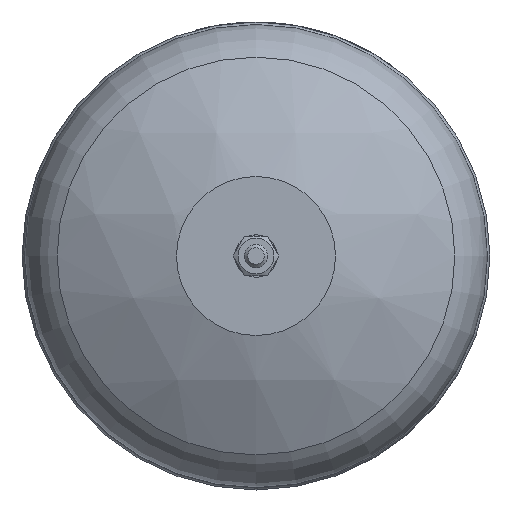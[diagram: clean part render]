
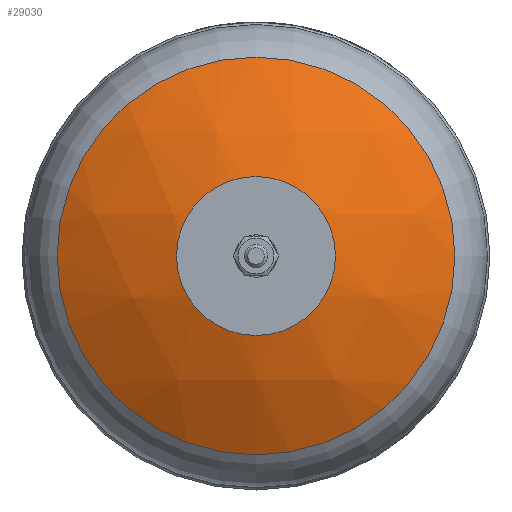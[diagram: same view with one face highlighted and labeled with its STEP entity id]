
A CAD part, front view. The second image highlights one B-rep face of the part: STEP entity #29030.
In plain terms, the highlighted spherical face has radius 159 mm.
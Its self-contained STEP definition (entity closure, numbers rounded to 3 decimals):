
#5150=SPHERICAL_SURFACE('',#31263,159.);
#6591=FACE_BOUND('',#9864,.T.);
#8069=FACE_OUTER_BOUND('',#9863,.T.);
#9863=EDGE_LOOP('',(#25499));
#9864=EDGE_LOOP('',(#25500));
#10733=CIRCLE('',#31262,85.047);
#10734=CIRCLE('',#31264,34.);
#13357=VERTEX_POINT('',#58596);
#13358=VERTEX_POINT('',#58599);
#17482=EDGE_CURVE('',#13357,#13357,#10733,.T.);
#17483=EDGE_CURVE('',#13358,#13358,#10734,.T.);
#25499=ORIENTED_EDGE('',*,*,#17482,.T.);
#25500=ORIENTED_EDGE('',*,*,#17483,.F.);
#29030=ADVANCED_FACE('',(#8069,#6591),#5150,.T.);
#31262=AXIS2_PLACEMENT_3D('',#58597,#37315,#37316);
#31263=AXIS2_PLACEMENT_3D('',#58598,#37317,#37318);
#31264=AXIS2_PLACEMENT_3D('',#58600,#37319,#37320);
#37315=DIRECTION('center_axis',(0.,-1.,0.));
#37316=DIRECTION('ref_axis',(1.,0.,0.));
#37317=DIRECTION('center_axis',(0.,0.,
1.));
#37318=DIRECTION('ref_axis',(-1.,0.,0.));
#37319=DIRECTION('center_axis',(0.,-1.,0.));
#37320=DIRECTION('ref_axis',(1.,0.,0.));
#58596=CARTESIAN_POINT('',(85.047,-149.021,0.));
#58597=CARTESIAN_POINT('Origin',(0.,-149.021,
0.));
#58598=CARTESIAN_POINT('Origin',(0.,-14.678,
0.));
#58599=CARTESIAN_POINT('',(34.,-170.,0.));
#58600=CARTESIAN_POINT('Origin',(0.,-170.,0.));
